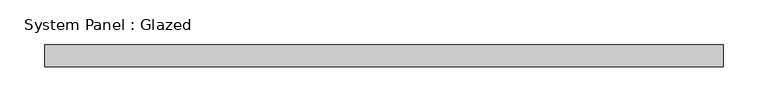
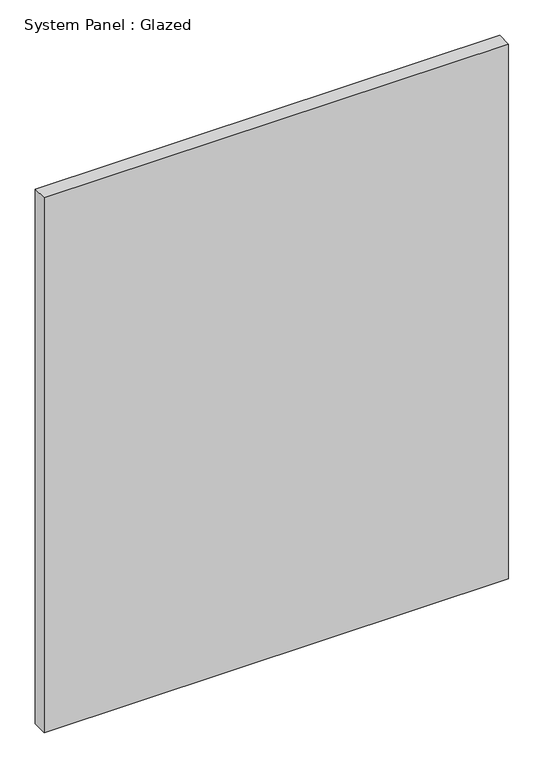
"""IFC4 building model written with IfcOpenShell, lengths in millimetres: plate geometry, System Panel : Glazed."""

from ifc_helpers import new_model, si_unit, origin, origin_with_axes, place, context, project, spatial, polyline, outline, extrude, source, transform, mapped, element, save


def system_panel_glazed_3806e4db(model_context):
    return source(origin(), model_context, "Body", "SweptSolid", [
        extrude(outline(polyline([(380.3077389, 24.5), (-380.3077389, 24.5), (-380.3077389, 49.5), (380.3077389, 49.5), (380.3077389, 24.5)])), origin_with_axes(), (0.0, 0.0, 1.0), 925.0),
    ])


if __name__ == "__main__":
    model = new_model("IFC4")
    model_context = context("Model", 3, world=origin())
    ifc_project = project(units=[si_unit("LENGTHUNIT", "METRE", prefix="MILLI")], contexts=[model_context])
    site = spatial("IfcSite", under=ifc_project)
    building = spatial("IfcBuilding", under=site)
    placement = place(None, origin())
    system_panel_glazed_shape = system_panel_glazed_3806e4db(model_context)
    element("IfcPlate", 1, ObjectType="System Panel : Glazed", at=placement, inside=building, context=model_context, shape_type="MappedRepresentation", body=[
        mapped(system_panel_glazed_shape, transform((0.0, 0.0, 0.0), x_axis=(1.0, 0.0, 0.0), y_axis=(0.0, 1.0, 0.0), z_axis=(0.0, 0.0, 1.0))),
    ])
    save(model, "model.ifc")
